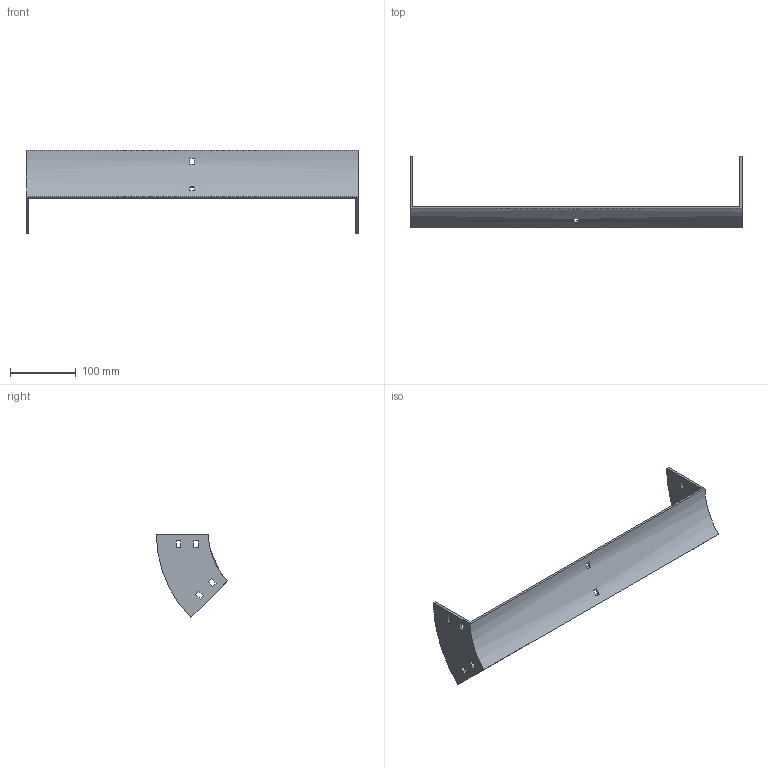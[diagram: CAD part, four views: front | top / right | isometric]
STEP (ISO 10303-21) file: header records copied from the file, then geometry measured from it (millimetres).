
FILE_DESCRIPTION (( 'STEP AP214' ), '1' );
FILE_NAME ('34B1C500.step', '2025-02-21T09:29:36', ( '' ), ( '' ), 'SwSTEP 2.0', 'SolidWorks 2023', '' );
FILE_SCHEMA (( 'AUTOMOTIVE_DESIGN' ));
Length unit declared in the file: millimetre
Products named in the file (1): 34B1C500
Bounding box: 504 x 108.29 x 126.57 mm (x, y, z)
Volume: 197224.1 mm3; surface area: 119431 mm2
Topology: 1 solids, 1 shells, 50 faces, 144 edges, 96 vertices
Faces by surface type: plane 46, cylinder 4
Entity records: 1687 total; most frequent: CARTESIAN_POINT 291, ORIENTED_EDGE 288, DIRECTION 262, EDGE_CURVE 144, LINE 128, VECTOR 128, VERTEX_POINT 96, EDGE_LOOP 70
